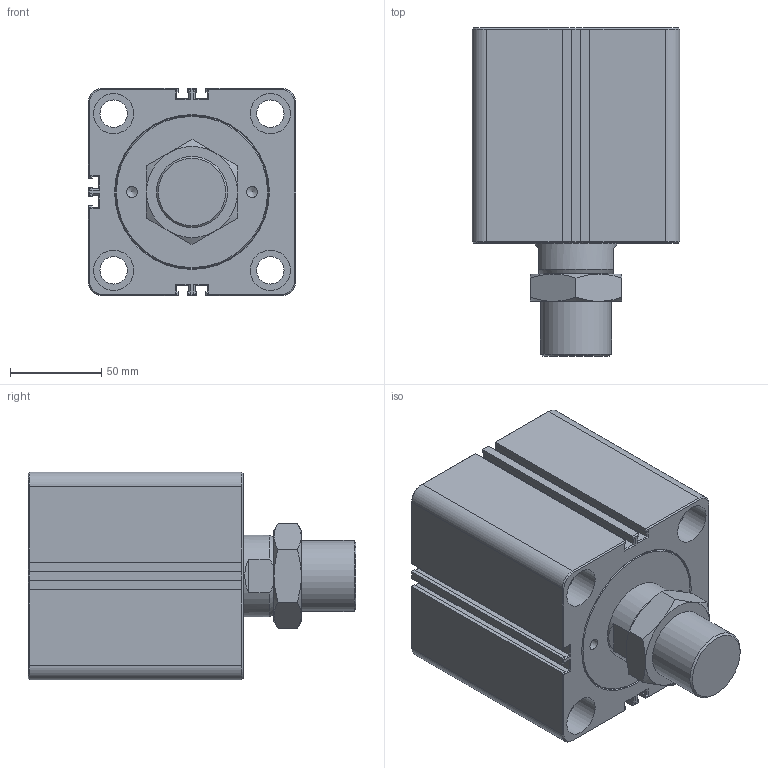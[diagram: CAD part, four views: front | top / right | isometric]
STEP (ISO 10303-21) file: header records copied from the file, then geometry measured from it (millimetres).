
FILE_DESCRIPTION(/* description */ (''),/* implementation_level */ '2;1');
FILE_NAME(/* name */ 'HTM70-SDMB80X40W',/* time_stamp */ '2019-06-05T16:23:40+08:00',/* author */ ('JEFF HUANG'),/* organization */ ('TAIWAN AMAC CLAMP INDUSTRIAL CO., LTD.'),/* preprocessor_version */ 'ST-DEVELOPER v16.7',/* originating_system */ 'DEX',/* authorisation */ $);
FILE_SCHEMA (('AUTOMOTIVE_DESIGN {1 0 10303 214 3 1 1}'));
Length unit declared in the file: millimetre
Products named in the file (1): HTM70-SDMB80X40W
Bounding box: 114 x 180 x 114 mm (x, y, z)
Volume: 1483523.6 mm3; surface area: 123360.4 mm2
Topology: 1 solids, 1 shells, 301 faces, 676 edges, 397 vertices
Faces by surface type: plane 188, cone 50, bspline 36, cylinder 27
Full cylindrical faces by diameter (mm): 6 x1, 6.1 x2, 7 x2, 15 x6, 16.5 x2, 22 x8, 39 x1, 45 x1
Entity records: 10353 total; most frequent: CARTESIAN_POINT 2044, ORIENTED_EDGE 1248, DIRECTION 1172, EDGE_CURVE 624, LINE 408, VECTOR 408, VERTEX_POINT 382, AXIS2_PLACEMENT_3D 382
